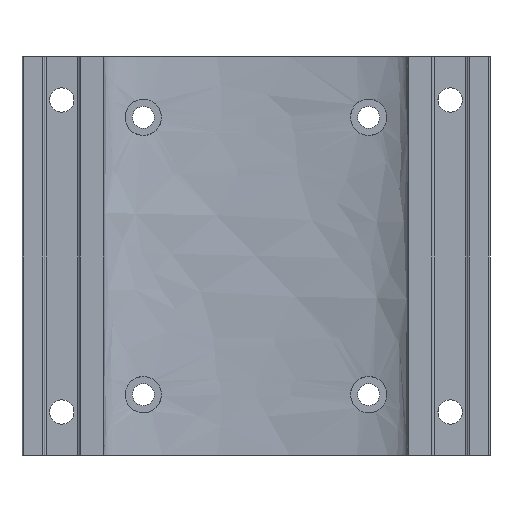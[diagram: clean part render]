
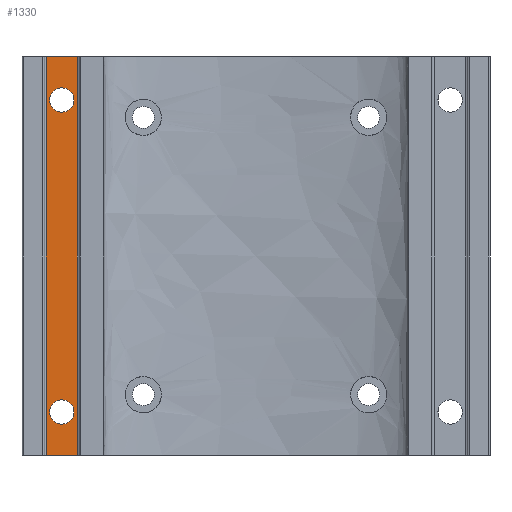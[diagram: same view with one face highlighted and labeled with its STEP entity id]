
A CAD part, front view. The second image highlights one B-rep face of the part: STEP entity #1330.
In plain terms, the highlighted planar face has unit normal (0, -1, 0).
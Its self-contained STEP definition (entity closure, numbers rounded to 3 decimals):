
#21 = LINE ( 'NONE', #1249, #486 ) ;
#29 = CARTESIAN_POINT ( 'NONE',  ( -59.5, -13.5, -12.5 ) ) ;
#99 = DIRECTION ( 'NONE',  ( 0., 0., 1. ) ) ;
#113 = FACE_BOUND ( 'NONE', #134, .T. ) ;
#119 = CARTESIAN_POINT ( 'NONE',  ( -51.5, -13.5, 0. ) ) ;
#134 = EDGE_LOOP ( 'NONE', ( #254, #704 ) ) ;
#254 = ORIENTED_EDGE ( 'NONE', *, *, #916, .T. ) ;
#324 = CARTESIAN_POINT ( 'NONE',  ( -59.5, -13.5, -102.5 ) ) ;
#373 = VERTEX_POINT ( 'NONE', #119 ) ;
#386 = ORIENTED_EDGE ( 'NONE', *, *, #2435, .T. ) ;
#393 = ORIENTED_EDGE ( 'NONE', *, *, #1165, .T. ) ;
#408 = VECTOR ( 'NONE', #1302, 1000. ) ;
#426 = CARTESIAN_POINT ( 'NONE',  ( -56., -13.5, -12.5 ) ) ;
#444 = AXIS2_PLACEMENT_3D ( 'NONE', #2151, #1965, #1975 ) ;
#476 = CARTESIAN_POINT ( 'NONE',  ( -52.5, -13.5, -12.5 ) ) ;
#486 = VECTOR ( 'NONE', #1279, 1000. ) ;
#562 = AXIS2_PLACEMENT_3D ( 'NONE', #2361, #1260, #99 ) ;
#612 = EDGE_CURVE ( 'NONE', #907, #1185, #21, .T. ) ;
#617 = DIRECTION ( 'NONE',  ( 0., 0., 1. ) ) ;
#620 = FACE_OUTER_BOUND ( 'NONE', #744, .T. ) ;
#704 = ORIENTED_EDGE ( 'NONE', *, *, #2279, .T. ) ;
#744 = EDGE_LOOP ( 'NONE', ( #1475, #1255, #1347, #2416 ) ) ;
#746 = EDGE_LOOP ( 'NONE', ( #393, #386 ) ) ;
#852 = AXIS2_PLACEMENT_3D ( 'NONE', #426, #1749, #617 ) ;
#907 = VERTEX_POINT ( 'NONE', #2234 ) ;
#916 = EDGE_CURVE ( 'NONE', #938, #1152, #1087, .T. ) ;
#938 = VERTEX_POINT ( 'NONE', #29 ) ;
#981 = LINE ( 'NONE', #1379, #408 ) ;
#983 = CIRCLE ( 'NONE', #1271, 3.5 ) ;
#1025 = DIRECTION ( 'NONE',  ( 0., 0., 1. ) ) ;
#1087 = CIRCLE ( 'NONE', #1183, 3.5 ) ;
#1104 = CARTESIAN_POINT ( 'NONE',  ( -51.5, -13.5, 0. ) ) ;
#1134 = FACE_BOUND ( 'NONE', #746, .T. ) ;
#1152 = VERTEX_POINT ( 'NONE', #476 ) ;
#1165 = EDGE_CURVE ( 'NONE', #2146, #1213, #983, .T. ) ;
#1183 = AXIS2_PLACEMENT_3D ( 'NONE', #2281, #2282, #2291 ) ;
#1185 = VERTEX_POINT ( 'NONE', #1783 ) ;
#1213 = VERTEX_POINT ( 'NONE', #1960 ) ;
#1237 = CARTESIAN_POINT ( 'NONE',  ( -56., -13.5, -102.5 ) ) ;
#1249 = CARTESIAN_POINT ( 'NONE',  ( -61., -13.5, -115. ) ) ;
#1255 = ORIENTED_EDGE ( 'NONE', *, *, #1471, .T. ) ;
#1260 = DIRECTION ( 'NONE',  ( 0., 1., 0. ) ) ;
#1271 = AXIS2_PLACEMENT_3D ( 'NONE', #1237, #1390, #1422 ) ;
#1279 = DIRECTION ( 'NONE',  ( -1., 0., 0. ) ) ;
#1302 = DIRECTION ( 'NONE',  ( 0., 0., -1. ) ) ;
#1330 = ADVANCED_FACE ( 'NONE', ( #113, #1134, #620 ), #1955, .F. ) ;
#1343 = CIRCLE ( 'NONE', #852, 3.5 ) ;
#1347 = ORIENTED_EDGE ( 'NONE', *, *, #1979, .T. ) ;
#1372 = CARTESIAN_POINT ( 'NONE',  ( -61., -13.5, 0. ) ) ;
#1379 = CARTESIAN_POINT ( 'NONE',  ( -60.5, -13.5, -115. ) ) ;
#1390 = DIRECTION ( 'NONE',  ( 0., 1., 0. ) ) ;
#1391 = DIRECTION ( 'NONE',  ( -1., 0., 0. ) ) ;
#1422 = DIRECTION ( 'NONE',  ( 0., 0., 1. ) ) ;
#1443 = LINE ( 'NONE', #1372, #2367 ) ;
#1471 = EDGE_CURVE ( 'NONE', #907, #373, #1890, .T. ) ;
#1475 = ORIENTED_EDGE ( 'NONE', *, *, #612, .F. ) ;
#1545 = CIRCLE ( 'NONE', #562, 3.5 ) ;
#1672 = EDGE_CURVE ( 'NONE', #1780, #1185, #981, .T. ) ;
#1711 = VECTOR ( 'NONE', #1025, 1000. ) ;
#1749 = DIRECTION ( 'NONE',  ( 0., 1., 0. ) ) ;
#1780 = VERTEX_POINT ( 'NONE', #1866 ) ;
#1783 = CARTESIAN_POINT ( 'NONE',  ( -60.5, -13.5, -115. ) ) ;
#1866 = CARTESIAN_POINT ( 'NONE',  ( -60.5, -13.5, 0. ) ) ;
#1890 = LINE ( 'NONE', #1104, #1711 ) ;
#1955 = PLANE ( 'NONE',  #444 ) ;
#1960 = CARTESIAN_POINT ( 'NONE',  ( -52.5, -13.5, -102.5 ) ) ;
#1965 = DIRECTION ( 'NONE',  ( 0., 1., 0. ) ) ;
#1975 = DIRECTION ( 'NONE',  ( 0., 0., 1. ) ) ;
#1979 = EDGE_CURVE ( 'NONE', #373, #1780, #1443, .T. ) ;
#2146 = VERTEX_POINT ( 'NONE', #324 ) ;
#2151 = CARTESIAN_POINT ( 'NONE',  ( -61., -13.5, -115. ) ) ;
#2234 = CARTESIAN_POINT ( 'NONE',  ( -51.5, -13.5, -115. ) ) ;
#2279 = EDGE_CURVE ( 'NONE', #1152, #938, #1343, .T. ) ;
#2281 = CARTESIAN_POINT ( 'NONE',  ( -56., -13.5, -12.5 ) ) ;
#2282 = DIRECTION ( 'NONE',  ( 0., 1., 0. ) ) ;
#2291 = DIRECTION ( 'NONE',  ( 0., 0., 1. ) ) ;
#2361 = CARTESIAN_POINT ( 'NONE',  ( -56., -13.5, -102.5 ) ) ;
#2367 = VECTOR ( 'NONE', #1391, 1000. ) ;
#2416 = ORIENTED_EDGE ( 'NONE', *, *, #1672, .T. ) ;
#2435 = EDGE_CURVE ( 'NONE', #1213, #2146, #1545, .T. ) ;
